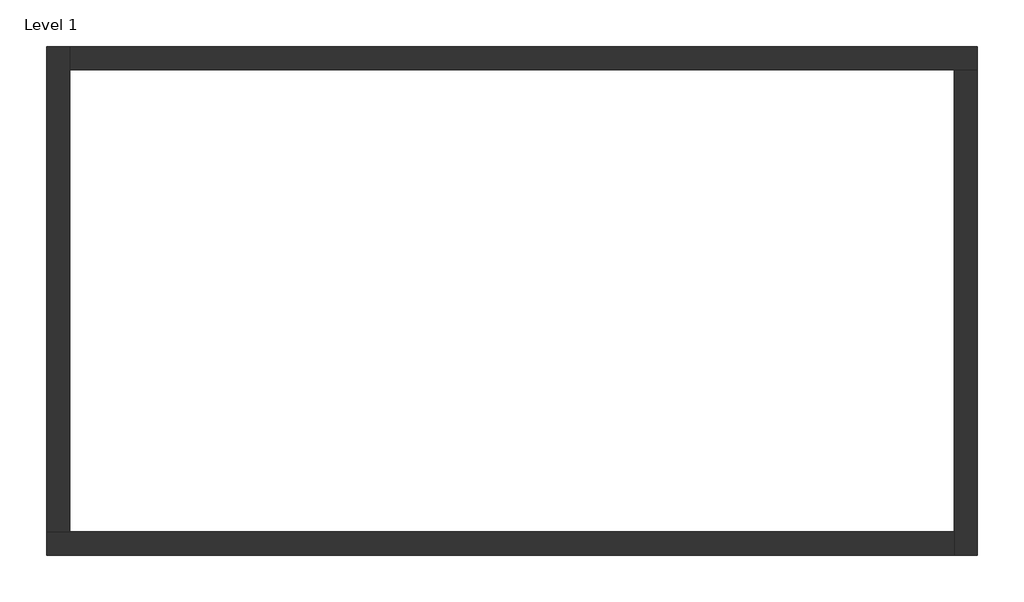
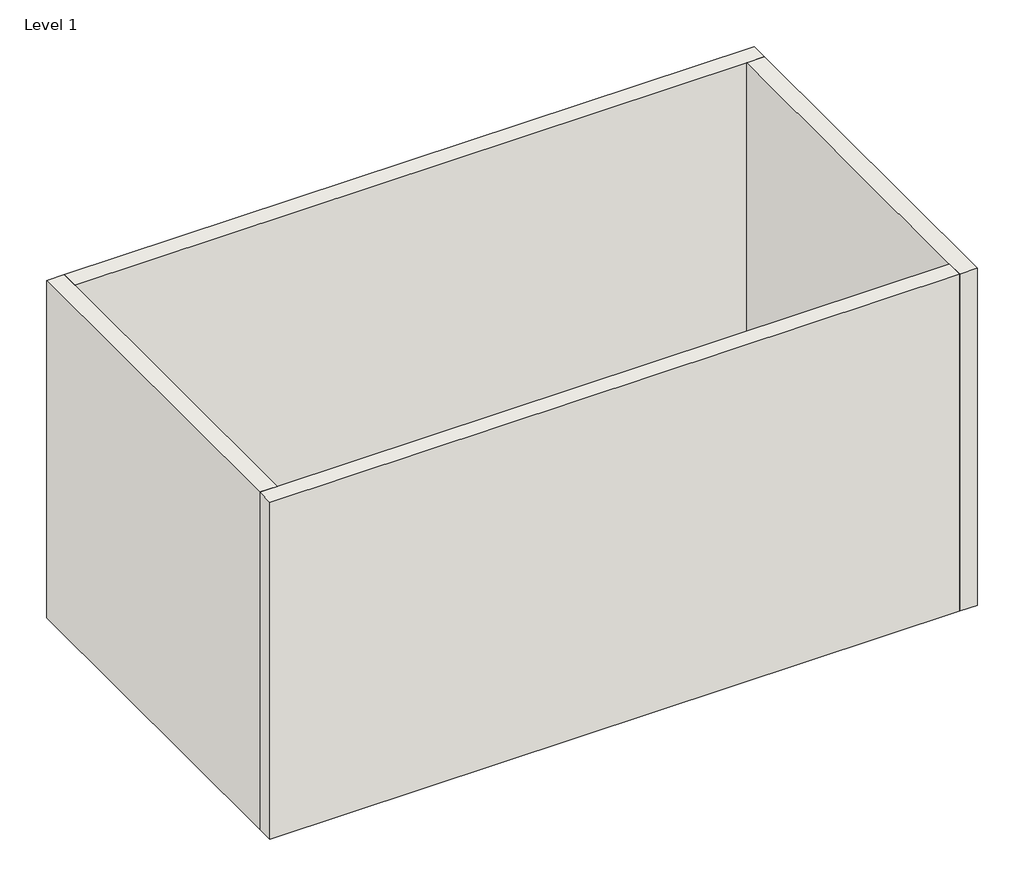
# One storey: 4 walls.
"""IFC4 building model written with IfcOpenShell, lengths in millimetres."""

from ifc_helpers import new_model, si_unit, origin, place, context, project, spatial, faceted_brep, element, save

model = new_model("IFC4")

# Units and contexts
model_context = context("Model", 3, world=origin())
ifc_project = project(units=[si_unit("LENGTHUNIT", "METRE", prefix="MILLI")], contexts=[model_context])

# Site, building, storey
site = spatial("IfcSite", under=ifc_project)
building = spatial("IfcBuilding", under=site)
storey = spatial("IfcBuildingStorey", under=building, Name="Level 1", Elevation=0.0)

# Walls
placement = place(None, origin())
element("IfcWall", 1, ObjectType="Wall 1", at=placement, inside=storey, context=model_context, shape_type="Brep", body=[
    faceted_brep([(-15057.1773221, 499.2159228, 0.0), (-7317.1773221, 499.2159228, 0.0), (-7317.1773221, 499.2159228, 4000.0), (-15057.1773221, 499.2159228, 4000.0), (-15057.1773221, 699.2159228, 0.0), (-15057.1773221, 699.2159228, 4000.0), (-14857.1773221, 699.2159228, 4000.0), (-7317.1773221, 699.2159228, 4000.0), (-7317.1773221, 699.2159228, 0.0), (-14857.1773221, 699.2159228, 0.0)], [[[0, 1, 2, 3]], [[4, 5, 6, 7, 8, 9]], [[1, 0, 4, 9, 8]], [[3, 2, 7, 6, 5]], [[0, 3, 5, 4]], [[2, 1, 8, 7]]]),
])
element("IfcWall", 2, ObjectType="Wall 1", at=placement, inside=storey, context=model_context, shape_type="Brep", body=[
    faceted_brep([(-15057.1773221, 4839.2159228, 0.0), (-15057.1773221, 699.2159228, 0.0), (-15057.1773221, 699.2159228, 4000.0), (-15057.1773221, 4839.2159228, 4000.0), (-14857.1773221, 4839.2159228, 0.0), (-14857.1773221, 4839.2159228, 4000.0), (-14857.1773221, 4639.2159228, 4000.0), (-14857.1773221, 699.2159228, 4000.0), (-14857.1773221, 699.2159228, 0.0), (-14857.1773221, 4639.2159228, 0.0)], [[[0, 1, 2, 3]], [[4, 5, 6, 7, 8, 9]], [[1, 0, 4, 9, 8]], [[3, 2, 7, 6, 5]], [[0, 3, 5, 4]], [[2, 1, 8, 7]]]),
])
element("IfcWall", 3, ObjectType="Wall 1", at=placement, inside=storey, context=model_context, shape_type="Brep", body=[
    faceted_brep([(-7117.1773221, 4839.2159228, 0.0), (-14857.1773221, 4839.2159228, 0.0), (-14857.1773221, 4839.2159228, 4000.0), (-7117.1773221, 4839.2159228, 4000.0), (-7117.1773221, 4639.2159228, 0.0), (-7117.1773221, 4639.2159228, 4000.0), (-7317.1773221, 4639.2159228, 4000.0), (-14857.1773221, 4639.2159228, 4000.0), (-14857.1773221, 4639.2159228, 0.0), (-7317.1773221, 4639.2159228, 0.0)], [[[0, 1, 2, 3]], [[4, 5, 6, 7, 8, 9]], [[1, 0, 4, 9, 8]], [[3, 2, 7, 6, 5]], [[0, 3, 5, 4]], [[2, 1, 8, 7]]]),
])
element("IfcWall", 4, ObjectType="Wall 1", at=placement, inside=storey, context=model_context, shape_type="Brep", body=[
    faceted_brep([(-7117.1773221, 499.2159228, 0.0), (-7117.1773221, 4639.2159228, 0.0), (-7117.1773221, 4639.2159228, 4000.0), (-7117.1773221, 499.2159228, 4000.0), (-7317.1773221, 499.2159228, 0.0), (-7317.1773221, 499.2159228, 4000.0), (-7317.1773221, 699.2159228, 4000.0), (-7317.1773221, 4639.2159228, 4000.0), (-7317.1773221, 4639.2159228, 0.0), (-7317.1773221, 699.2159228, 0.0)], [[[0, 1, 2, 3]], [[4, 5, 6, 7, 8, 9]], [[1, 0, 4, 9, 8]], [[3, 2, 7, 6, 5]], [[0, 3, 5, 4]], [[2, 1, 8, 7]]]),
])

save(model, "model.ifc")
